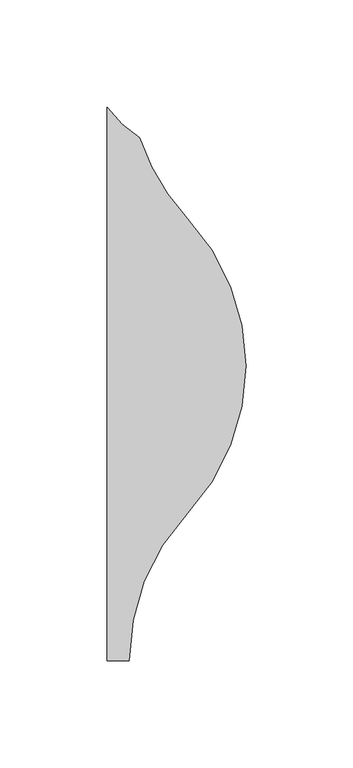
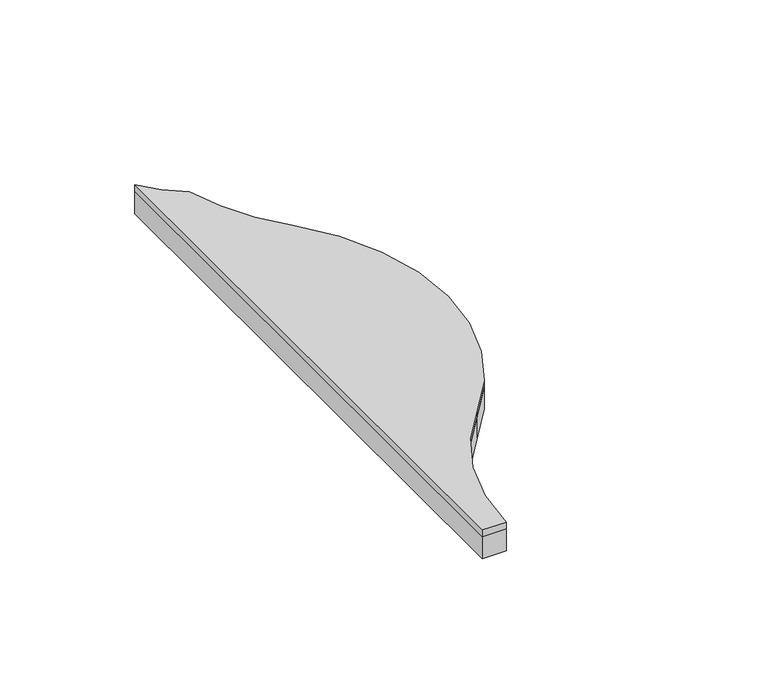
"""IFC4 building model written with IfcOpenShell, lengths in millimetres: proxy geometry, FilzFelt_Fish_Block : Fish Block."""

from ifc_helpers import new_model, si_unit, frame, origin, place, context, project, spatial, polyline, circle_curve, source, transform, mapped, element, save
from ifc_brep_helpers import plane_surface, cylinder_surface, revolved_surface, advanced_brep


def specialty_equipment_795359a8(model_context):
    return source(origin(), model_context, "Body", "AdvancedBrep", [
        advanced_brep(
        [(53.5486457, 68.6120133, 10.0210937), (53.5486457, -68.6120133, 10.0210937), (26.3830688, -137.2240266, 10.0210937), (16.1629825, -137.2240266, 10.0210937), (16.1629825, 120.3702279, 10.0210937), (31.2619065, 106.3338576, 10.0210937), (53.5486457, 68.6120133, 12.9976563), (31.2619065, 106.3338576, 12.9976563), (16.1629825, 120.3702279, 12.9976563), (16.1629825, -137.2240266, 12.9976563), (26.3830688, -137.2240266, 12.9976563), (53.5486457, -68.6120133, 12.9976563), (80.7142226, 0.0, 12.9976563)],
        [
            (0, 1, circle_curve(frame((-19.5151403, 0.0, 10.0210937), z_axis=(0.0, 0.0, -1.0), x_axis=(-1.0, 0.0, 0.0)), 100.2293629)),
            (1, 2, circle_curve(frame((126.6124317, -137.2240266, 10.0210937), z_axis=(0.0, 0.0, 1.0), x_axis=(-1.0, 0.0, 0.0)), 100.2293629)),
            (2, 3),
            (3, 4),
            (4, 5, circle_curve(frame((57.9263497, 150.1559416, 10.0210937), z_axis=(0.0, 0.0, 1.0), x_axis=(-1.0, 0.0, 0.0)), 51.2968574)),
            (5, 0, circle_curve(frame((126.6124317, 137.2240266, 10.0210937), z_axis=(0.0, 0.0, 1.0), x_axis=(-1.0, 0.0, 0.0)), 100.2293629)),
            (6, 7, circle_curve(frame((126.6124317, 137.2240266, 12.9976563), z_axis=(0.0, 0.0, -1.0), x_axis=(-1.0, 0.0, 0.0)), 100.2293629)),
            (7, 8, circle_curve(frame((57.9263497, 150.1559416, 12.9976563), z_axis=(0.0, 0.0, -1.0), x_axis=(-1.0, 0.0, 0.0)), 51.2968574)),
            (8, 9),
            (9, 10),
            (10, 11, circle_curve(frame((126.6124317, -137.2240266, 12.9976563), z_axis=(0.0, 0.0, -1.0), x_axis=(-1.0, 0.0, 0.0)), 100.2293629)),
            (11, 12, circle_curve(frame((-19.5151403, 0.0, 12.9976563), z_axis=(0.0, 0.0, 1.0), x_axis=(-1.0, 0.0, 0.0)), 100.2293629)),
            (12, 6, circle_curve(frame((-19.5151403, 0.0, 12.9976563), z_axis=(0.0, 0.0, 1.0), x_axis=(-1.0, 0.0, 0.0)), 100.2293629)),
            (0, 6),
            (11, 1),
            (10, 2),
            (7, 5),
            (4, 8),
            (3, 9),
        ],
        [
            plane_surface(frame((0.0, 0.0, 10.0210937), z_axis=(0.0, 0.0, -1.0), x_axis=(0.0, -1.0, 0.0))),
            plane_surface(frame((0.0, 0.0, 12.9976563), z_axis=(0.0, 0.0, 1.0), x_axis=(0.0, -1.0, 0.0))),
            cylinder_surface(frame((-19.5151403, 0.0, 10.0210937), z_axis=(0.0, 0.0, -1.0), x_axis=(-1.0, 0.0, 0.0)), 100.2293629),
            revolved_surface(polyline([(26.383068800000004, -137.2240266, 12.9976563), (26.383068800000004, -137.2240266, 10.0210937)]), (126.6124317, -137.2240266, 10.0210937), (0.0, 0.0, 1.0)),
            revolved_surface(polyline([(6.629492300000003, 150.1559416, 12.9976563), (6.629492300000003, 150.1559416, 10.0210937)]), (57.9263497, 150.1559416, 10.0210937), (0.0, 0.0, 1.0)),
            revolved_surface(polyline([(26.383068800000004, 137.2240266, 12.9976563), (26.383068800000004, 137.2240266, 10.0210937)]), (126.6124317, 137.2240266, 10.0210937), (0.0, 0.0, 1.0)),
            plane_surface(frame((16.1629825, 168.3338795, 12.9976562), z_axis=(-1.0, 0.0, 0.0), x_axis=(0.0, -1.0, 0.0))),
            plane_surface(frame((112.4642226, -137.2240266, 12.9976562), z_axis=(0.0, -1.0, 0.0), x_axis=(0.0, 0.0, -1.0))),
        ],
        [
            (0, [[1, 2, 3, 4, 5, 6]]),
            (1, [[7, 8, 9, 10, 11, 12, 13]]),
            (2, [[-1, 14, -13, -12, 15]]),
            (3, [[-15, -11, 16, -2]]),
            (4, [[17, -5, 18, -8]]),
            (5, [[-6, -17, -7, -14]]),
            (6, [[-18, -4, 19, -9]]),
            (7, [[-3, -16, -10, -19]]),
        ],
    ),
        advanced_brep(
        [(31.2619065, 106.3338576, 0.0), (53.5486457, 68.6120133, 0.0), (80.7142226, 0.0, 0.0), (53.5486457, -68.6120133, 0.0), (26.3830688, -137.2240266, 0.0), (16.1629825, -137.2240266, 0.0), (16.1629825, 120.3702279, 0.0), (53.5486457, -68.6120133, 10.0210937), (53.5486457, 68.6120133, 10.0210937), (31.2619065, 106.3338576, 10.0210937), (16.1629825, 120.3702279, 10.0210937), (16.1629825, -137.2240266, 10.0210937), (26.3830688, -137.2240266, 10.0210937)],
        [
            (0, 1, circle_curve(frame((126.6124317, 137.2240266, 0.0), z_axis=(0.0, 0.0, 1.0), x_axis=(-1.0, 0.0, 0.0)), 100.2293629)),
            (1, 2, circle_curve(frame((-19.5151403, 0.0, 0.0), z_axis=(0.0, 0.0, -1.0), x_axis=(-1.0, 0.0, 0.0)), 100.2293629)),
            (2, 3, circle_curve(frame((-19.5151403, 0.0, 0.0), z_axis=(0.0, 0.0, -1.0), x_axis=(-1.0, 0.0, 0.0)), 100.2293629)),
            (3, 4, circle_curve(frame((126.6124317, -137.2240266, 0.0), z_axis=(0.0, 0.0, 1.0), x_axis=(-1.0, 0.0, 0.0)), 100.2293629)),
            (4, 5),
            (5, 6),
            (6, 0, circle_curve(frame((57.9263497, 150.1559416, 0.0), z_axis=(0.0, 0.0, 1.0), x_axis=(-1.0, 0.0, 0.0)), 51.2968574)),
            (7, 8, circle_curve(frame((-19.5151403, 0.0, 10.0210937), z_axis=(0.0, 0.0, 1.0), x_axis=(-1.0, 0.0, 0.0)), 100.2293629)),
            (8, 9, circle_curve(frame((126.6124317, 137.2240266, 10.0210937), z_axis=(0.0, 0.0, -1.0), x_axis=(-1.0, 0.0, 0.0)), 100.2293629)),
            (9, 10, circle_curve(frame((57.9263497, 150.1559416, 10.0210937), z_axis=(0.0, 0.0, -1.0), x_axis=(-1.0, 0.0, 0.0)), 51.2968574)),
            (10, 11),
            (11, 12),
            (12, 7, circle_curve(frame((126.6124317, -137.2240266, 10.0210937), z_axis=(0.0, 0.0, -1.0), x_axis=(-1.0, 0.0, 0.0)), 100.2293629)),
            (9, 0),
            (6, 10),
            (8, 1),
            (7, 3),
            (12, 4),
            (5, 11),
        ],
        [
            plane_surface(frame((0.0, 0.0, 0.0), z_axis=(0.0, 0.0, -1.0), x_axis=(0.0, -1.0, 0.0))),
            plane_surface(frame((0.0, 0.0, 10.0210937), z_axis=(0.0, 0.0, 1.0), x_axis=(0.0, -1.0, 0.0))),
            revolved_surface(polyline([(6.629492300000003, 150.1559416, 10.0210937), (6.629492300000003, 150.1559416, 0.0)]), (57.9263497, 150.1559416, 0.0), (0.0, 0.0, 1.0)),
            revolved_surface(polyline([(26.383068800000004, 137.2240266, 10.0210937), (26.383068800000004, 137.2240266, 0.0)]), (126.6124317, 137.2240266, 0.0), (0.0, 0.0, 1.0)),
            cylinder_surface(frame((-19.5151403, 0.0, 0.0), z_axis=(0.0, 0.0, -1.0), x_axis=(-1.0, 0.0, 0.0)), 100.2293629),
            revolved_surface(polyline([(26.383068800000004, -137.2240266, 10.0210937), (26.383068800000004, -137.2240266, 0.0)]), (126.6124317, -137.2240266, 0.0), (0.0, 0.0, 1.0)),
            plane_surface(frame((16.1629825, 168.3338795, 12.9976562), z_axis=(-1.0, 0.0, 0.0), x_axis=(0.0, -1.0, 0.0))),
            plane_surface(frame((112.4642226, -137.2240266, 12.9976562), z_axis=(0.0, -1.0, 0.0), x_axis=(0.0, 0.0, -1.0))),
        ],
        [
            (0, [[1, 2, 3, 4, 5, 6, 7]]),
            (1, [[8, 9, 10, 11, 12, 13]]),
            (2, [[14, -7, 15, -10]]),
            (3, [[-1, -14, -9, 16]]),
            (4, [[-8, 17, -3, -2, -16]]),
            (5, [[-17, -13, 18, -4]]),
            (6, [[-15, -6, 19, -11]]),
            (7, [[-5, -18, -12, -19]]),
        ],
    ),
    ])


if __name__ == "__main__":
    model = new_model("IFC4")
    model_context = context("Model", 3, world=origin())
    ifc_project = project(units=[si_unit("LENGTHUNIT", "METRE", prefix="MILLI")], contexts=[model_context])
    site = spatial("IfcSite", under=ifc_project)
    building = spatial("IfcBuilding", under=site)
    placement = place(None, origin())
    specialty_equipment_shape = specialty_equipment_795359a8(model_context)
    element("IfcBuildingElementProxy", 1, Name="FilzFelt_Fish_Block : Fish Block", ObjectType="FilzFelt_Fish_Block : Fish Block", at=placement, inside=building, context=model_context, shape_type="MappedRepresentation", body=[
        mapped(specialty_equipment_shape, transform((0.0, 0.0, 0.0), x_axis=(1.0, 0.0, 0.0), y_axis=(0.0, 1.0, 0.0), z_axis=(0.0, 0.0, 1.0))),
    ])
    save(model, "model.ifc")
